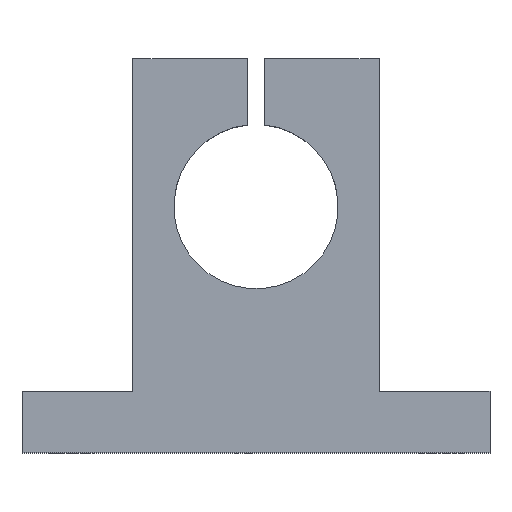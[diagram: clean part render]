
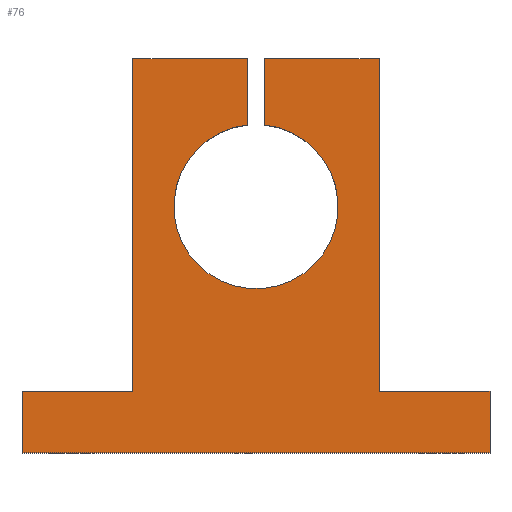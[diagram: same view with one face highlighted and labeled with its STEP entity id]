
A CAD part, top view. The second image highlights one B-rep face of the part: STEP entity #76.
In plain terms, the highlighted planar face has unit normal (0, 0, 1).
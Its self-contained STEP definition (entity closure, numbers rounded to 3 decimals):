
#76 = ADVANCED_FACE( '', ( #94 ), #95, .T. );
#94 = FACE_OUTER_BOUND( '', #132, .T. );
#95 = PLANE( '', #133 );
#132 = EDGE_LOOP( '', ( #175, #176, #177, #178, #179, #180, #181, #182, #183, #184, #185, #186 ) );
#133 = AXIS2_PLACEMENT_3D( '', #187, #188, #189 );
#175 = ORIENTED_EDGE( '', *, *, #300, .T. );
#176 = ORIENTED_EDGE( '', *, *, #301, .T. );
#177 = ORIENTED_EDGE( '', *, *, #302, .T. );
#178 = ORIENTED_EDGE( '', *, *, #303, .T. );
#179 = ORIENTED_EDGE( '', *, *, #304, .T. );
#180 = ORIENTED_EDGE( '', *, *, #305, .T. );
#181 = ORIENTED_EDGE( '', *, *, #306, .T. );
#182 = ORIENTED_EDGE( '', *, *, #307, .T. );
#183 = ORIENTED_EDGE( '', *, *, #308, .F. );
#184 = ORIENTED_EDGE( '', *, *, #309, .T. );
#185 = ORIENTED_EDGE( '', *, *, #310, .T. );
#186 = ORIENTED_EDGE( '', *, *, #298, .T. );
#187 = CARTESIAN_POINT( '', ( 0., 60., 18. ) );
#188 = DIRECTION( '', ( 0., 0., 1. ) );
#189 = DIRECTION( '', ( 1., 0., 0. ) );
#298 = EDGE_CURVE( '', #341, #339, #342, .T. );
#300 = EDGE_CURVE( '', #339, #344, #345, .T. );
#301 = EDGE_CURVE( '', #344, #346, #347, .T. );
#302 = EDGE_CURVE( '', #346, #348, #349, .T. );
#303 = EDGE_CURVE( '', #348, #350, #351, .T. );
#304 = EDGE_CURVE( '', #350, #352, #353, .T. );
#305 = EDGE_CURVE( '', #352, #354, #355, .T. );
#306 = EDGE_CURVE( '', #354, #356, #357, .T. );
#307 = EDGE_CURVE( '', #356, #358, #359, .T. );
#308 = EDGE_CURVE( '', #360, #358, #361, .T. );
#309 = EDGE_CURVE( '', #360, #362, #363, .T. );
#310 = EDGE_CURVE( '', #362, #341, #364, .T. );
#339 = VERTEX_POINT( '', #408 );
#341 = VERTEX_POINT( '', #411 );
#342 = LINE( '', #412, #413 );
#344 = VERTEX_POINT( '', #416 );
#345 = LINE( '', #417, #418 );
#346 = VERTEX_POINT( '', #419 );
#347 = LINE( '', #420, #421 );
#348 = VERTEX_POINT( '', #422 );
#349 = LINE( '', #423, #424 );
#350 = VERTEX_POINT( '', #425 );
#351 = LINE( '', #426, #427 );
#352 = VERTEX_POINT( '', #428 );
#353 = LINE( '', #429, #430 );
#354 = VERTEX_POINT( '', #431 );
#355 = LINE( '', #432, #433 );
#356 = VERTEX_POINT( '', #434 );
#357 = LINE( '', #435, #436 );
#358 = VERTEX_POINT( '', #437 );
#359 = LINE( '', #438, #439 );
#360 = VERTEX_POINT( '', #440 );
#361 = CIRCLE( '', #441, 20. );
#362 = VERTEX_POINT( '', #442 );
#363 = LINE( '', #443, #444 );
#364 = LINE( '', #445, #446 );
#408 = CARTESIAN_POINT( '', ( -30., 15., 18. ) );
#411 = CARTESIAN_POINT( '', ( -30., 96., 18. ) );
#412 = CARTESIAN_POINT( '', ( -30., 96., 18. ) );
#413 = VECTOR( '', #508, 1000. );
#416 = CARTESIAN_POINT( '', ( -57., 15., 18. ) );
#417 = CARTESIAN_POINT( '', ( -30., 15., 18. ) );
#418 = VECTOR( '', #510, 1000. );
#419 = CARTESIAN_POINT( '', ( -57., 0., 18. ) );
#420 = CARTESIAN_POINT( '', ( -57., 15., 18. ) );
#421 = VECTOR( '', #511, 1000. );
#422 = CARTESIAN_POINT( '', ( 57., 0., 18. ) );
#423 = CARTESIAN_POINT( '', ( -57., 0., 18. ) );
#424 = VECTOR( '', #512, 1000. );
#425 = CARTESIAN_POINT( '', ( 57., 15., 18. ) );
#426 = CARTESIAN_POINT( '', ( 57., 0., 18. ) );
#427 = VECTOR( '', #513, 1000. );
#428 = CARTESIAN_POINT( '', ( 30., 15., 18. ) );
#429 = CARTESIAN_POINT( '', ( 57., 15., 18. ) );
#430 = VECTOR( '', #514, 1000. );
#431 = CARTESIAN_POINT( '', ( 30., 96., 18. ) );
#432 = CARTESIAN_POINT( '', ( 30., 15., 18. ) );
#433 = VECTOR( '', #515, 1000. );
#434 = CARTESIAN_POINT( '', ( 2., 96., 18. ) );
#435 = CARTESIAN_POINT( '', ( 30., 96., 18. ) );
#436 = VECTOR( '', #516, 1000. );
#437 = CARTESIAN_POINT( '', ( 2., 79.9, 18. ) );
#438 = CARTESIAN_POINT( '', ( 2., 96., 18. ) );
#439 = VECTOR( '', #517, 1000. );
#440 = CARTESIAN_POINT( '', ( -2., 79.9, 18. ) );
#441 = AXIS2_PLACEMENT_3D( '', #518, #519, #520 );
#442 = CARTESIAN_POINT( '', ( -2., 96., 18. ) );
#443 = CARTESIAN_POINT( '', ( -2., 79.9, 18. ) );
#444 = VECTOR( '', #521, 1000. );
#445 = CARTESIAN_POINT( '', ( -2., 96., 18. ) );
#446 = VECTOR( '', #522, 1000. );
#508 = DIRECTION( '', ( 0., -1., 0. ) );
#510 = DIRECTION( '', ( -1., 0., 0. ) );
#511 = DIRECTION( '', ( 0., -1., 0. ) );
#512 = DIRECTION( '', ( 1., 0., 0. ) );
#513 = DIRECTION( '', ( 0., 1., 0. ) );
#514 = DIRECTION( '', ( -1., 0., 0. ) );
#515 = DIRECTION( '', ( 0., 1., 0. ) );
#516 = DIRECTION( '', ( -1., 0., 0. ) );
#517 = DIRECTION( '', ( 0., -1., 0. ) );
#518 = CARTESIAN_POINT( '', ( 0., 60., 18. ) );
#519 = DIRECTION( '', ( 0., 0., 1. ) );
#520 = DIRECTION( '', ( 1., 0., 0. ) );
#521 = DIRECTION( '', ( 0., 1., 0. ) );
#522 = DIRECTION( '', ( -1., 0., 0. ) );
